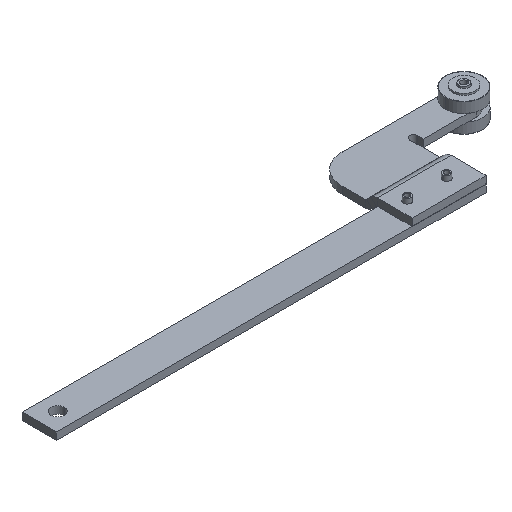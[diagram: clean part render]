
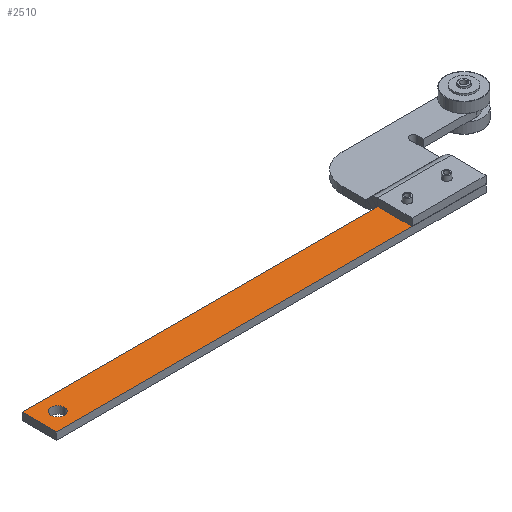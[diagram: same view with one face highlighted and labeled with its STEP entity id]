
A CAD part, isometric view. The second image highlights one B-rep face of the part: STEP entity #2510.
In plain terms, the highlighted planar face has unit normal (0, 0, 1).
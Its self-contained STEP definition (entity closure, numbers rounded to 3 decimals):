
#14 = VERTEX_POINT ( 'NONE', #982 ) ;
#40 = VECTOR ( 'NONE', #2349, 1000. ) ;
#91 = DIRECTION ( 'NONE',  ( 1., 0., 0. ) ) ;
#126 = AXIS2_PLACEMENT_3D ( 'NONE', #1574, #2206, #364 ) ;
#221 = LINE ( 'NONE', #685, #502 ) ;
#295 = CARTESIAN_POINT ( 'NONE',  ( 151.05, 7., 0. ) ) ;
#364 = DIRECTION ( 'NONE',  ( 1., 0., 0. ) ) ;
#374 = EDGE_CURVE ( 'NONE', #1692, #2391, #1360, .T. ) ;
#430 = ORIENTED_EDGE ( 'NONE', *, *, #652, .F. ) ;
#483 = CARTESIAN_POINT ( 'NONE',  ( 10.25, 7., 0. ) ) ;
#486 = CARTESIAN_POINT ( 'NONE',  ( 0., 0., 0. ) ) ;
#493 = CARTESIAN_POINT ( 'NONE',  ( 174.5, 0., 0. ) ) ;
#495 = DIRECTION ( 'NONE',  ( 0., 0., 1. ) ) ;
#502 = VECTOR ( 'NONE', #2250, 1000. ) ;
#507 = ORIENTED_EDGE ( 'NONE', *, *, #1093, .T. ) ;
#511 = FACE_BOUND ( 'NONE', #1796, .T. ) ;
#534 = FACE_BOUND ( 'NONE', #738, .T. ) ;
#537 = CIRCLE ( 'NONE', #2053, 1.55 ) ;
#592 = VERTEX_POINT ( 'NONE', #1716 ) ;
#652 = EDGE_CURVE ( 'NONE', #1450, #1248, #1399, .T. ) ;
#655 = EDGE_CURVE ( 'NONE', #1248, #1450, #537, .T. ) ;
#663 = CARTESIAN_POINT ( 'NONE',  ( 4.75, 7., 0. ) ) ;
#685 = CARTESIAN_POINT ( 'NONE',  ( 0., 14., 0. ) ) ;
#711 = DIRECTION ( 'NONE',  ( 0., 0., 1. ) ) ;
#717 = CIRCLE ( 'NONE', #2233, 1.55 ) ;
#738 = EDGE_LOOP ( 'NONE', ( #430, #2501 ) ) ;
#818 = ORIENTED_EDGE ( 'NONE', *, *, #2035, .T. ) ;
#828 = ORIENTED_EDGE ( 'NONE', *, *, #1532, .F. ) ;
#838 = CARTESIAN_POINT ( 'NONE',  ( 7.5, 7., 0. ) ) ;
#855 = CARTESIAN_POINT ( 'NONE',  ( 165.5, 7., 0. ) ) ;
#866 = DIRECTION ( 'NONE',  ( 0., 0., 1. ) ) ;
#894 = FACE_BOUND ( 'NONE', #1659, .T. ) ;
#903 = LINE ( 'NONE', #2563, #40 ) ;
#923 = PLANE ( 'NONE',  #1550 ) ;
#982 = CARTESIAN_POINT ( 'NONE',  ( 0., 14., 0. ) ) ;
#996 = CIRCLE ( 'NONE', #1458, 1.55 ) ;
#1054 = LINE ( 'NONE', #486, #1745 ) ;
#1062 = LINE ( 'NONE', #1453, #1260 ) ;
#1093 = EDGE_CURVE ( 'NONE', #592, #1777, #1054, .T. ) ;
#1103 = CARTESIAN_POINT ( 'NONE',  ( 149.5, 7., 0. ) ) ;
#1122 = DIRECTION ( 'NONE',  ( -1., 0., 0. ) ) ;
#1133 = CARTESIAN_POINT ( 'NONE',  ( 165.5, 7., 0. ) ) ;
#1168 = ORIENTED_EDGE ( 'NONE', *, *, #2500, .F. ) ;
#1172 = CARTESIAN_POINT ( 'NONE',  ( 147.95, 7., 0. ) ) ;
#1248 = VERTEX_POINT ( 'NONE', #1172 ) ;
#1260 = VECTOR ( 'NONE', #2566, 1000. ) ;
#1284 = DIRECTION ( 'NONE',  ( 1., 0., 0. ) ) ;
#1324 = FACE_OUTER_BOUND ( 'NONE', #1528, .T. ) ;
#1360 = CIRCLE ( 'NONE', #2240, 2.75 ) ;
#1368 = DIRECTION ( 'NONE',  ( 1., 0., 0. ) ) ;
#1399 = CIRCLE ( 'NONE', #1965, 1.55 ) ;
#1408 = ORIENTED_EDGE ( 'NONE', *, *, #374, .F. ) ;
#1409 = VERTEX_POINT ( 'NONE', #2176 ) ;
#1450 = VERTEX_POINT ( 'NONE', #295 ) ;
#1453 = CARTESIAN_POINT ( 'NONE',  ( 0., 0., 0. ) ) ;
#1458 = AXIS2_PLACEMENT_3D ( 'NONE', #1133, #711, #1368 ) ;
#1465 = DIRECTION ( 'NONE',  ( 0., 0., 1. ) ) ;
#1528 = EDGE_LOOP ( 'NONE', ( #818, #507, #2117, #2127 ) ) ;
#1532 = EDGE_CURVE ( 'NONE', #2391, #1692, #2406, .T. ) ;
#1550 = AXIS2_PLACEMENT_3D ( 'NONE', #2161, #1751, #1122 ) ;
#1568 = CARTESIAN_POINT ( 'NONE',  ( 167.05, 7., 0. ) ) ;
#1574 = CARTESIAN_POINT ( 'NONE',  ( 7.5, 7., 0. ) ) ;
#1656 = DIRECTION ( 'NONE',  ( 1., 0., 0. ) ) ;
#1659 = EDGE_LOOP ( 'NONE', ( #828, #1408 ) ) ;
#1676 = DIRECTION ( 'NONE',  ( 1., 0., 0. ) ) ;
#1692 = VERTEX_POINT ( 'NONE', #663 ) ;
#1716 = CARTESIAN_POINT ( 'NONE',  ( 0., 0., 0. ) ) ;
#1743 = EDGE_CURVE ( 'NONE', #1777, #1940, #903, .T. ) ;
#1745 = VECTOR ( 'NONE', #1284, 1000. ) ;
#1751 = DIRECTION ( 'NONE',  ( 0., 0., -1. ) ) ;
#1777 = VERTEX_POINT ( 'NONE', #493 ) ;
#1796 = EDGE_LOOP ( 'NONE', ( #2662, #1168 ) ) ;
#1820 = EDGE_CURVE ( 'NONE', #1940, #14, #221, .T. ) ;
#1940 = VERTEX_POINT ( 'NONE', #2034 ) ;
#1965 = AXIS2_PLACEMENT_3D ( 'NONE', #1103, #495, #91 ) ;
#2034 = CARTESIAN_POINT ( 'NONE',  ( 174.5, 14., 0. ) ) ;
#2035 = EDGE_CURVE ( 'NONE', #14, #592, #1062, .T. ) ;
#2049 = EDGE_CURVE ( 'NONE', #2487, #1409, #717, .T. ) ;
#2053 = AXIS2_PLACEMENT_3D ( 'NONE', #2522, #1465, #2551 ) ;
#2117 = ORIENTED_EDGE ( 'NONE', *, *, #1743, .T. ) ;
#2127 = ORIENTED_EDGE ( 'NONE', *, *, #1820, .T. ) ;
#2161 = CARTESIAN_POINT ( 'NONE',  ( 0., 0., 0. ) ) ;
#2176 = CARTESIAN_POINT ( 'NONE',  ( 163.95, 7., 0. ) ) ;
#2206 = DIRECTION ( 'NONE',  ( 0., 0., 1. ) ) ;
#2233 = AXIS2_PLACEMENT_3D ( 'NONE', #855, #866, #1676 ) ;
#2240 = AXIS2_PLACEMENT_3D ( 'NONE', #838, #2313, #1656 ) ;
#2250 = DIRECTION ( 'NONE',  ( -1., 0., 0. ) ) ;
#2313 = DIRECTION ( 'NONE',  ( 0., 0., 1. ) ) ;
#2349 = DIRECTION ( 'NONE',  ( 0., 1., 0. ) ) ;
#2391 = VERTEX_POINT ( 'NONE', #483 ) ;
#2406 = CIRCLE ( 'NONE', #126, 2.75 ) ;
#2487 = VERTEX_POINT ( 'NONE', #1568 ) ;
#2500 = EDGE_CURVE ( 'NONE', #1409, #2487, #996, .T. ) ;
#2501 = ORIENTED_EDGE ( 'NONE', *, *, #655, .F. ) ;
#2510 = ADVANCED_FACE ( 'NONE', ( #894, #534, #511, #1324 ), #923, .F. ) ;
#2522 = CARTESIAN_POINT ( 'NONE',  ( 149.5, 7., 0. ) ) ;
#2551 = DIRECTION ( 'NONE',  ( 1., 0., 0. ) ) ;
#2563 = CARTESIAN_POINT ( 'NONE',  ( 174.5, 0., 0. ) ) ;
#2566 = DIRECTION ( 'NONE',  ( 0., -1., 0. ) ) ;
#2662 = ORIENTED_EDGE ( 'NONE', *, *, #2049, .F. ) ;
